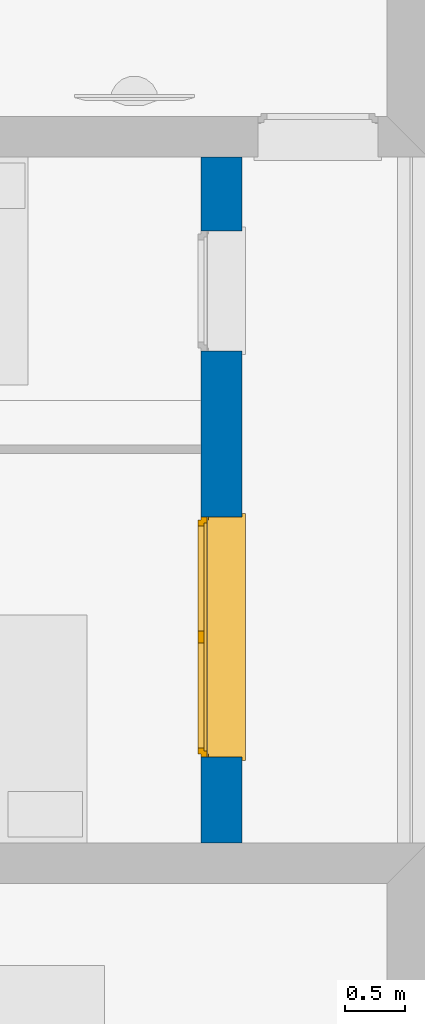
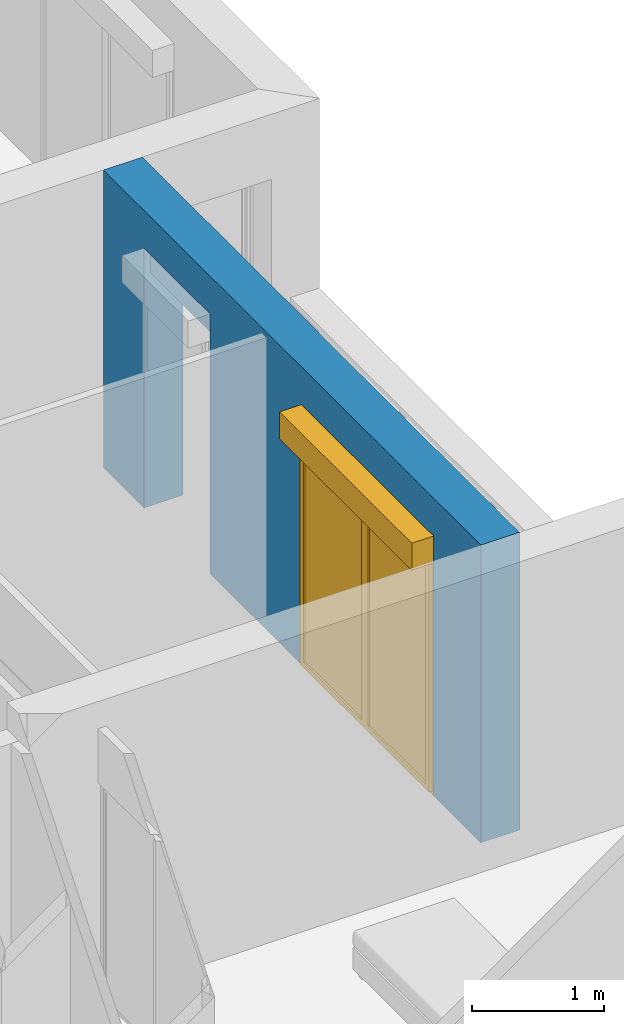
# One storey, part 36 of 164: 1 wall, 1 window, 2 openings.
"""IFC2X3 building model written with IfcOpenShell, lengths in millimetres."""

from ifc_helpers import new_model, entity, si_unit, converted_unit, derived_unit, money_unit, direction, frame, origin_with_axes, place, context, subcontext, project, spatial, polyline, outline, extrude, open_shell, faceted_brep, surface_model, source, transform, mapped, material, layer, layer_set, layer_usage, type_object, element, fill, save


model = new_model("IFC2X3")

# Units and contexts
model_context = context("Model", 3, precision=0.01, world=origin_with_axes(), true_north=direction((0.0, 1.0)))
body_context = subcontext(model_context, "Body", "Model", "MODEL_VIEW")
ifc_project = project(units=[si_unit("LENGTHUNIT", "METRE", prefix="MILLI"), si_unit("AREAUNIT", "SQUARE_METRE"), si_unit("VOLUMEUNIT", "CUBIC_METRE"), converted_unit("PLANEANGLEUNIT", "DEGREE", entity("IfcPlaneAngleMeasure", 0.0174532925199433), si_unit("PLANEANGLEUNIT", "RADIAN"), dimensions=[0, 0, 0, 0, 0, 0, 0]), money_unit("USD"), converted_unit("TIMEUNIT", "Year", entity("IfcTimeMeasure", 31557600.0), si_unit("TIMEUNIT", "SECOND"), dimensions=[0, 0, 1, 0, 0, 0, 0]), si_unit("MASSUNIT", "GRAM", prefix="KILO"), si_unit("THERMODYNAMICTEMPERATUREUNIT", "DEGREE_CELSIUS"), si_unit("LUMINOUSINTENSITYUNIT", "LUMEN"), si_unit("ENERGYUNIT", "JOULE", prefix="MEGA"), derived_unit("THERMALCONDUCTANCEUNIT", [(si_unit("POWERUNIT", "WATT"), 1), (si_unit("LENGTHUNIT", "METRE"), -1), (si_unit("THERMODYNAMICTEMPERATUREUNIT", "KELVIN"), -1)]), derived_unit("SPECIFICHEATCAPACITYUNIT", [(si_unit("ENERGYUNIT", "JOULE"), 1), (si_unit("MASSUNIT", "GRAM", prefix="KILO"), -1), (si_unit("THERMODYNAMICTEMPERATUREUNIT", "KELVIN"), -1)]), derived_unit("MASSDENSITYUNIT", [(si_unit("MASSUNIT", "GRAM", prefix="KILO"), 1), (si_unit("VOLUMEUNIT", "CUBIC_METRE"), -1)])], contexts=[model_context])

# Site, building, storey
site_placement = place(None, origin_with_axes())
site = spatial("IfcSite", under=ifc_project, at=site_placement, Name="Site", CompositionType="ELEMENT")
building_placement = place(site_placement, origin_with_axes())
building = spatial("IfcBuilding", under=site, at=building_placement, Name="Bâtiment", CompositionType="ELEMENT")
storey_placement = place(building_placement, frame((0.0, 0.0, 5750.0), z_axis=(0.0, 0.0, 1.0), x_axis=(1.0, 0.0, 0.0)))
storey = spatial("IfcBuildingStorey", under=building, at=storey_placement, Name="Etage1", CompositionType="ELEMENT", Elevation=5750.0)

# Wall, openings, window
ifc_material_1 = material(Name="Parpaing 312445824")
ifc_layer_1 = layer(ifc_material_1, 180.0, ventilated="UNKNOWN")
ifc_material_2 = material(Name="Isolant styromousse 301821074")
ifc_layer_2 = layer(ifc_material_2, 160.0, ventilated="UNKNOWN")
ifc_layer_set = layer_set([ifc_layer_1, ifc_layer_2], Name="isol int 18+16 0018356637")
ifc_layer_usage = layer_usage(ifc_layer_set, "AXIS2", "POSITIVE", 0.0)
wall_type = type_object("IfcWallType", Name="isol int 18+16 0018356637 340", PredefinedType="NOTDEFINED")
wall_placement = place(storey_placement, frame((2232806.658098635, -646738.4413036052, 0.0), z_axis=(0.0, 0.0, 1.0), x_axis=(0.0, 1.0, 0.0)))
wall = element("IfcWallStandardCase", 1, at=wall_placement, inside=storey, type_object=wall_type, material=ifc_layer_usage, Name="Mur-144", context=body_context, shape_type="SweptSolid", body=[
    extrude(outline(polyline([(0.0, 0.0), (5713.115765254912, 0.0), (5713.115765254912, 340.0000000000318), (0.0, 340.0000000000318), (0.0, 0.0)])), origin_with_axes(), (0.0, 0.0, 1.0), 2750.0),
])
opening_1_placement = place(wall_placement, frame((4599.031209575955, 0.0, 0.0), z_axis=(0.0, 0.0, 1.0), x_axis=(1.0, 0.0, 0.0)))
element("IfcOpeningElement", 2, at=opening_1_placement, cuts=wall, Name="Fen-134", context=body_context, shape_type="Brep", body=[
    faceted_brep([(500.0, 290.0000000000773, 2150.0), (500.0, 280.0000000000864, 2150.0), (500.0, -0.9999999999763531, 2150.0), (500.0, -0.9999999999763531, 0.0), (500.0, 290.0000000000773, 0.0), (500.0, 341.0000000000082, 2150.0), (500.0, 530.0000000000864, 2150.0), (500.0, 530.0000000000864, 2400.0), (500.0, 280.0000000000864, 2400.0), (-500.0, 280.0000000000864, 2150.0), (-500.0, -0.9999999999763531, 2150.0), (-500.0, -0.9999999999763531, 0.0), (-500.0, 290.0000000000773, 0.0), (-500.0, 341.0000000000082, 0.0), (500.0, 341.0000000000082, 0.0), (-500.0, 341.0000000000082, 2150.0), (-500.0, 530.0000000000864, 2150.0), (-500.0, 530.0000000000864, 2400.0), (-500.0, 280.0000000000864, 2400.0), (-500.0, 290.0000000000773, 2150.0)], [[[0, 1, 2, 3, 4]], [[1, 0, 5, 6, 7, 8]], [[1, 9, 10, 2]], [[10, 11, 3, 2]], [[4, 3, 11, 12, 13, 14]], [[5, 0, 4, 14]], [[5, 15, 16, 6]], [[7, 6, 16, 17]], [[8, 7, 17, 18]], [[9, 1, 8, 18]], [[9, 19, 12, 11, 10]], [[19, 15, 13, 12]], [[15, 5, 14, 13]], [[19, 9, 18, 17, 16, 15]]]),
])
opening_2_placement = place(wall_placement, frame((1715.842808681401, 0.0, 0.0), z_axis=(0.0, 0.0, 1.0), x_axis=(1.0, 0.0, 0.0)))
opening_2 = element("IfcOpeningElement", 3, at=opening_2_placement, cuts=wall, Name="Fen-207", context=body_context, shape_type="Brep", body=[
    faceted_brep([(1000.0, 290.0000000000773, 2150.000000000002), (1000.0, 280.0000000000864, 2150.000000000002), (1000.0, -0.9999999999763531, 2150.000000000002), (1000.0, -0.9999999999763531, 0.0), (1000.0, 290.0000000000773, 0.0), (1000.0, 341.0000000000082, 2150.000000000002), (1000.0, 530.0000000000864, 2150.000000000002), (1000.0, 530.0000000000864, 2400.000000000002), (1000.0, 280.0000000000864, 2400.000000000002), (-1000.0, 280.0000000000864, 2150.000000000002), (-1000.0, -0.9999999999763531, 2150.000000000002), (-1000.0, -0.9999999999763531, 0.0), (-1000.0, 290.0000000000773, 0.0), (-1000.0, 341.0000000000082, 0.0), (1000.0, 341.0000000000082, 0.0), (-1000.0, 341.0000000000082, 2150.000000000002), (-1000.0, 530.0000000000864, 2150.000000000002), (-1000.0, 530.0000000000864, 2400.000000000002), (-1000.0, 280.0000000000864, 2400.000000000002), (-1000.0, 290.0000000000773, 2150.000000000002)], [[[0, 1, 2, 3, 4]], [[1, 0, 5, 6, 7, 8]], [[1, 9, 10, 2]], [[10, 11, 3, 2]], [[4, 3, 11, 12, 13, 14]], [[5, 0, 4, 14]], [[5, 15, 16, 6]], [[7, 6, 16, 17]], [[8, 7, 17, 18]], [[9, 1, 8, 18]], [[9, 19, 12, 11, 10]], [[19, 15, 13, 12]], [[15, 5, 14, 13]], [[19, 9, 18, 17, 16, 15]]]),
])
window_style = type_object("IfcWindowStyle", Name="Fenêtre châssis double variable 27", ConstructionType="NOTDEFINED", OperationType="DOUBLE_PANEL_VERTICAL", ParameterTakesPrecedence=False, Sizeable=False)
shared_shape = source(origin_with_axes(), body_context, "Body", "SurfaceModel", [
    surface_model("IfcShellBasedSurfaceModel", [(1000.0, -51.00000000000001, 40.00000000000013), (1000.0, -51.00000000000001, 50.00000000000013), (-1000.0, -51.00000000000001, 50.0), (-1000.0, -51.00000000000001, 40.0), (1030.0, -369.9999999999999, 28.96551724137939), (1030.0, -339.9999999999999, 30.00324289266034), (1000.0, -339.9999999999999, 30.00324289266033), (-1000.0, -339.9999999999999, 30.00324289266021), (-1030.0, -339.9999999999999, 30.00324289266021), (-1030.0, -369.9999999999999, 28.96551724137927), (1030.0, -369.9999999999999, 8.965517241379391), (-1030.0, -369.9999999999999, 8.965517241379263), (1030.0, -359.9999999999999, 18.96551724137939), (-1030.0, -359.9999999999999, 18.96551724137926)], [open_shell([[[0, 1, 2, 3]], [[4, 5, 6, 0, 3, 7, 8, 9]], [[10, 4, 9, 11]], [[12, 10, 11, 13]]])]),
    faceted_brep([(-1000.0, -60.00000000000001, 2400.0), (-997.0, -60.00000000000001, 2400.0), (-997.0, 190.0, 2400.0), (-1000.0, 190.0, 2400.0), (-1000.0, -60.00000000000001, 2150.0), (-997.0, -60.00000000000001, 2150.0), (-997.0, 190.0, 2150.0), (-1000.0, 190.0, 2150.0)], [[[0, 1, 2, 3]], [[4, 5, 1, 0]], [[1, 5, 6, 2]], [[3, 2, 6, 7]], [[0, 3, 7, 4]], [[7, 6, 5, 4]]]),
    faceted_brep([(997.0000000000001, -59.99999999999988, 2400.0), (1000.0, -59.99999999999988, 2400.0), (1000.0, 190.0000000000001, 2400.0), (997.0000000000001, 190.0000000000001, 2400.0), (997.0000000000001, -59.99999999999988, 2150.0), (1000.0, -59.99999999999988, 2150.0), (1000.0, 190.0000000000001, 2150.0), (997.0000000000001, 190.0000000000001, 2150.0)], [[[0, 1, 2, 3]], [[4, 5, 1, 0]], [[1, 5, 6, 2]], [[3, 2, 6, 7]], [[0, 3, 7, 4]], [[7, 6, 5, 4]]]),
    faceted_brep([(-997.0, -60.0, 2150.0), (997.0, -59.99999999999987, 2150.0), (997.0, -59.99999999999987, 2400.0), (-997.0, -60.0, 2400.0), (-997.0, -56.99999999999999, 2150.0), (997.0, -56.99999999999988, 2150.0), (997.0, -56.99999999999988, 2397.0), (997.0, 187.0000000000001, 2397.0), (997.0, 187.0000000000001, 2153.0), (997.0, -37.99999999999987, 2153.0), (997.0, -37.99999999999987, 2150.0), (997.0, 190.0000000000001, 2150.0), (997.0, 190.0000000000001, 2400.0), (-997.0, 190.0, 2400.0), (-997.0, 190.0, 2150.0), (-997.0, -37.99999999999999, 2150.0), (-997.0, -37.99999999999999, 2153.0), (-997.0, 187.0, 2153.0), (-997.0, 187.0, 2397.0), (-997.0, -56.99999999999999, 2397.0)], [[[0, 1, 2, 3]], [[4, 5, 1, 0]], [[1, 5, 6, 7, 8, 9, 10, 11, 12, 2]], [[3, 2, 12, 13]], [[0, 3, 13, 14, 15, 16, 17, 18, 19, 4]], [[19, 6, 5, 4]], [[18, 7, 6, 19]], [[17, 8, 7, 18]], [[16, 9, 8, 17]], [[15, 10, 9, 16]], [[14, 11, 10, 15]], [[13, 12, 11, 14]]]),
    faceted_brep([(-994.0, -40.37442957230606, 2256.419644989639), (-994.0, -41.99999999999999, 2275.0), (-994.0, -40.37442957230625, 2293.580355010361), (-994.0, -35.54711042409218, 2311.596155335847), (-994.0, -27.66471820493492, 2328.5), (-994.0, -16.96675541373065, 2343.77827423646), (-994.0, -3.778274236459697, 2356.96675541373), (-994.0, 11.5, 2367.664718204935), (-994.0, 28.40384466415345, 2375.547110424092), (-994.0, 46.41964498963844, 2380.374429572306), (-994.0, 64.99999999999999, 2382.0), (-994.0, 83.58035501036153, 2380.374429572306), (-994.0, 101.5961553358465, 2375.547110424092), (-994.0, 118.5, 2367.664718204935), (-994.0, 133.7782742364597, 2356.96675541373), (-994.0, 146.9667554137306, 2343.77827423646), (-994.0, 157.6647182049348, 2328.5), (-994.0, 165.5471104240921, 2311.596155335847), (-994.0, 170.3744295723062, 2293.580355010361), (-994.0, 171.9999999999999, 2275.0), (-994.0, 170.3744295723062, 2256.419644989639), (-994.0, 165.5471104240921, 2238.403844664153), (-994.0, 157.6647182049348, 2221.5), (-994.0, 146.9667554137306, 2206.22172576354), (-994.0, 133.7782742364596, 2193.033244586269), (-994.0, 118.4999999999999, 2182.335281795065), (-994.0, 101.5961553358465, 2174.452889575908), (-994.0, 83.58035501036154, 2169.625570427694), (-994.0, 65.00000000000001, 2168.0), (-994.0, 46.4196449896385, 2169.625570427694), (-994.0, 28.40384466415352, 2174.452889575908), (-994.0, 11.50000000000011, 2182.335281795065), (-994.0, -3.778274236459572, 2193.033244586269), (-994.0, -16.9667554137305, 2206.22172576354), (-994.0, -27.66471820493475, 2221.5), (-994.0, -35.54711042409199, 2238.403844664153), (994.0, -40.37442957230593, 2256.419644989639), (994.0, -41.99999999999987, 2275.0), (994.0, -40.37442957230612, 2293.580355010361), (994.0, -35.54711042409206, 2311.596155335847), (994.0, -27.6647182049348, 2328.5), (994.0, -16.96675541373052, 2343.77827423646), (994.0, -3.778274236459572, 2356.96675541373), (994.0, 11.50000000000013, 2367.664718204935), (994.0, 28.40384466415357, 2375.547110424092), (994.0, 46.41964498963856, 2380.374429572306), (994.0, 65.00000000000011, 2382.0), (994.0, 83.58035501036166, 2380.374429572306), (994.0, 101.5961553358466, 2375.547110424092), (994.0, 118.5000000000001, 2367.664718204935), (994.0, 133.7782742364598, 2356.96675541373), (994.0, 146.9667554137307, 2343.77827423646), (994.0, 157.664718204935, 2328.5), (994.0, 165.5471104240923, 2311.596155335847), (994.0, 170.3744295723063, 2293.580355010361), (994.0, 172.0, 2275.0), (994.0, 170.3744295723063, 2256.419644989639), (994.0, 165.5471104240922, 2238.403844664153), (994.0, 157.6647182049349, 2221.5), (994.0, 146.9667554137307, 2206.22172576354), (994.0, 133.7782742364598, 2193.033244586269), (994.0, 118.5000000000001, 2182.335281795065), (994.0, 101.5961553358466, 2174.452889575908), (994.0, 83.58035501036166, 2169.625570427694), (994.0, 65.00000000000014, 2168.0), (994.0, 46.41964498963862, 2169.625570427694), (994.0, 28.40384466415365, 2174.452889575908), (994.0, 11.50000000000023, 2182.335281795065), (994.0, -3.778274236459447, 2193.033244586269), (994.0, -16.96675541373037, 2206.22172576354), (994.0, -27.66471820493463, 2221.5), (994.0, -35.54711042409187, 2238.403844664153)], [[[0, 1, 2, 3, 4, 5, 6, 7, 8, 9, 10, 11, 12, 13, 14, 15, 16, 17, 18, 19, 20, 21, 22, 23, 24, 25, 26, 27, 28, 29, 30, 31, 32, 33, 34, 35]], [[0, 36, 37, 1]], [[1, 37, 38, 2]], [[2, 38, 39, 3]], [[3, 39, 40, 4]], [[4, 40, 41, 5]], [[5, 41, 42, 6]], [[6, 42, 43, 7]], [[7, 43, 44, 8]], [[8, 44, 45, 9]], [[9, 45, 46, 10]], [[10, 46, 47, 11]], [[11, 47, 48, 12]], [[12, 48, 49, 13]], [[13, 49, 50, 14]], [[14, 50, 51, 15]], [[15, 51, 52, 16]], [[16, 52, 53, 17]], [[17, 53, 54, 18]], [[18, 54, 55, 19]], [[19, 55, 56, 20]], [[20, 56, 57, 21]], [[21, 57, 58, 22]], [[22, 58, 59, 23]], [[23, 59, 60, 24]], [[24, 60, 61, 25]], [[25, 61, 62, 26]], [[26, 62, 63, 27]], [[27, 63, 64, 28]], [[28, 64, 65, 29]], [[29, 65, 66, 30]], [[30, 66, 67, 31]], [[31, 67, 68, 32]], [[32, 68, 69, 33]], [[33, 69, 70, 34]], [[34, 70, 71, 35]], [[35, 71, 36, 0]], [[36, 71, 70, 69, 68, 67, 66, 65, 64, 63, 62, 61, 60, 59, 58, 57, 56, 55, 54, 53, 52, 51, 50, 49, 48, 47, 46, 45, 44, 43, 42, 41, 40, 39, 38, 37]]]),
    faceted_brep([(1000.0, -34.99999999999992, 30.0), (1000.0, -34.99999999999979, 2150.0), (1000.0, -59.99999999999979, 2150.0), (1000.0, -59.99999999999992, 30.0), (975.0, -34.99999999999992, 30.0), (975.0, -34.99999999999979, 2150.0), (975.0, -37.99999999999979, 2150.0), (997.0, -37.99999999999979, 2150.0), (997.0, -56.99999999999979, 2150.0), (975.0, -56.99999999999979, 2150.0), (975.0, -59.99999999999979, 2150.0), (975.0, -59.99999999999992, 30.0), (975.0, -56.99999999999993, 30.0), (997.0, -56.99999999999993, 30.0), (997.0, -37.99999999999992, 30.0), (975.0, -37.99999999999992, 30.0)], [[[0, 1, 2, 3]], [[4, 5, 1, 0]], [[1, 5, 6, 7, 8, 9, 10, 2]], [[3, 2, 10, 11]], [[0, 3, 11, 12, 13, 14, 15, 4]], [[15, 6, 5, 4]], [[14, 7, 6, 15]], [[13, 8, 7, 14]], [[12, 9, 8, 13]], [[11, 10, 9, 12]]]),
    faceted_brep([(-1000.0, -34.99999999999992, 30.0), (-1000.0, -59.99999999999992, 30.0), (-1000.0, -59.99999999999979, 2150.0), (-1000.0, -34.99999999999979, 2150.0), (-975.0, -34.99999999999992, 30.0), (-975.0, -37.99999999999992, 30.0), (-997.0, -37.99999999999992, 30.0), (-997.0, -56.99999999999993, 30.0), (-975.0, -56.99999999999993, 30.0), (-975.0, -59.99999999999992, 30.0), (-975.0, -59.99999999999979, 2150.0), (-975.0, -56.99999999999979, 2150.0), (-997.0, -56.99999999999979, 2150.0), (-997.0, -37.99999999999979, 2150.0), (-975.0, -37.99999999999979, 2150.0), (-975.0, -34.99999999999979, 2150.0)], [[[0, 1, 2, 3]], [[0, 4, 5, 6, 7, 8, 9, 1]], [[1, 9, 10, 2]], [[3, 2, 10, 11, 12, 13, 14, 15]], [[4, 0, 3, 15]], [[5, 4, 15, 14]], [[6, 5, 14, 13]], [[7, 6, 13, 12]], [[8, 7, 12, 11]], [[9, 8, 11, 10]]]),
    faceted_brep([(997.0, -46.66666666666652, 2275.0), (997.0, -46.66666666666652, 2266.666666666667), (-997.0, -46.66666666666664, 2266.666666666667), (-997.0, -46.66666666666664, 2275.0), (997.0, -51.66666666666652, 2275.0), (997.0, -51.66666666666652, 2266.666666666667), (997.0, -49.99999999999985, 2250.0), (997.0, -44.99999999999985, 2250.0), (-997.0, -44.99999999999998, 2250.0), (-997.0, -49.99999999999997, 2250.0), (-997.0, -51.66666666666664, 2266.666666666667), (-997.0, -51.66666666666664, 2275.0)], [[[0, 1, 2, 3]], [[4, 5, 6, 7, 1, 0]], [[2, 1, 7, 8]], [[3, 2, 8, 9, 10, 11]], [[3, 11, 4, 0]], [[10, 5, 4, 11]], [[9, 6, 5, 10]], [[8, 7, 6, 9]]]),
    faceted_brep([(-997.0, -44.99999999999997, 2250.0), (997.0, -44.99999999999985, 2250.0), (997.0, -46.66666666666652, 2233.333333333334), (-997.0, -46.66666666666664, 2233.333333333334), (-997.0, -49.99999999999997, 2250.0), (997.0, -49.99999999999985, 2250.0), (997.0, -51.66666666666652, 2233.333333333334), (997.0, -51.66666666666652, 2216.666666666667), (997.0, -49.99999999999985, 2200.0), (997.0, -44.99999999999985, 2200.0), (997.0, -46.66666666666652, 2216.666666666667), (-997.0, -46.66666666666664, 2216.666666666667), (-997.0, -44.99999999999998, 2200.0), (-997.0, -49.99999999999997, 2200.0), (-997.0, -51.66666666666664, 2216.666666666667), (-997.0, -51.66666666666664, 2233.333333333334)], [[[0, 1, 2, 3]], [[4, 5, 1, 0]], [[1, 5, 6, 7, 8, 9, 10, 2]], [[3, 2, 10, 11]], [[0, 3, 11, 12, 13, 14, 15, 4]], [[15, 6, 5, 4]], [[14, 7, 6, 15]], [[13, 8, 7, 14]], [[12, 9, 8, 13]], [[11, 10, 9, 12]]]),
    faceted_brep([(-997.0, -44.99999999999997, 2200.0), (997.0, -44.99999999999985, 2200.0), (997.0, -46.66666666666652, 2183.333333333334), (-997.0, -46.66666666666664, 2183.333333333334), (-997.0, -49.99999999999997, 2200.0), (997.0, -49.99999999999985, 2200.0), (997.0, -51.66666666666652, 2183.333333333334), (997.0, -51.66666666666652, 2166.666666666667), (997.0, -49.99999999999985, 2150.000000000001), (997.0, -44.99999999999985, 2150.000000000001), (997.0, -46.66666666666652, 2166.666666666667), (-997.0, -46.66666666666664, 2166.666666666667), (-997.0, -44.99999999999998, 2150.000000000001), (-997.0, -49.99999999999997, 2150.000000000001), (-997.0, -51.66666666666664, 2166.666666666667), (-997.0, -51.66666666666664, 2183.333333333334)], [[[0, 1, 2, 3]], [[4, 5, 1, 0]], [[1, 5, 6, 7, 8, 9, 10, 2]], [[3, 2, 10, 11]], [[0, 3, 11, 12, 13, 14, 15, 4]], [[15, 6, 5, 4]], [[14, 7, 6, 15]], [[13, 8, 7, 14]], [[12, 9, 8, 13]], [[11, 10, 9, 12]]]),
    faceted_brep([(-975.0, 0.0, 2100.0), (-1000.0, 0.0, 2100.0), (-1000.0, -50.00000000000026, 2100.0), (-950.0, -50.00000000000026, 2100.0), (-950.0, -25.00000000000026, 2100.0), (-975.0, -25.00000000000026, 2100.0), (-975.0, 0.0, 50.00000000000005), (-1000.0, 0.0, 50.00000000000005), (-1000.0, -50.00000000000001, 50.00000000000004), (-950.0, -50.00000000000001, 50.00000000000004), (-950.0, -25.00000000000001, 50.00000000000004), (-975.0, -25.00000000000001, 50.00000000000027)], [[[0, 1, 2, 3, 4, 5]], [[6, 7, 1, 0]], [[1, 7, 8, 2]], [[2, 8, 9, 3]], [[4, 3, 9, 10]], [[10, 11, 5, 4]], [[5, 11, 6, 0]], [[11, 10, 9, 8, 7, 6]]]),
    faceted_brep([(950.0, -25.00000000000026, 2100.0), (950.0, -50.00000000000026, 2100.0), (1000.0, -50.00000000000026, 2100.0), (1000.0, 0.0, 2100.0), (975.0, 0.0, 2100.0), (975.0, -25.00000000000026, 2100.0), (950.0, -25.00000000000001, 50.00000000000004), (950.0, -50.00000000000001, 50.00000000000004), (1000.0, -50.00000000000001, 50.00000000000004), (1000.0, 0.0, 50.00000000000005), (975.0, 0.0, 50.00000000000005), (975.0, -25.00000000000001, 50.00000000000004)], [[[0, 1, 2, 3, 4, 5]], [[6, 7, 1, 0]], [[8, 2, 1, 7]], [[9, 3, 2, 8]], [[4, 3, 9, 10]], [[10, 11, 5, 4]], [[5, 11, 6, 0]], [[11, 10, 9, 8, 7, 6]]]),
    faceted_brep([(950.0, -25.00000000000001, 50.00000000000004), (950.0, -50.00000000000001, 50.00000000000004), (1000.0, -50.00000000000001, 50.00000000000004), (1000.0, 0.0, 50.00000000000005), (975.0, 0.0, 50.00000000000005), (975.0, -25.00000000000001, 50.00000000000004), (-950.0, -25.00000000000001, 50.00000000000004), (-950.0, -50.00000000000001, 50.00000000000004), (-1000.0, -50.00000000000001, 50.00000000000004), (-1000.0, -50.0, 0.0), (1000.0, -50.0, 0.0), (1000.0, 0.0, 0.0), (-975.0, 0.0, 24.99999999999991), (975.0, 0.0, 24.99999999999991), (-1000.0, 0.0, 0.0), (-1000.0, 0.0, 50.00000000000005), (-975.0, 0.0, 50.00000000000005), (975.0, -25.0, 24.99999999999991), (-975.0, -25.0, 24.99999999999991), (-975.0, -25.00000000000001, 50.00000000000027)], [[[0, 1, 2, 3, 4, 5]], [[6, 7, 1, 0]], [[8, 9, 10, 2, 1, 7]], [[11, 3, 2, 10]], [[12, 13, 4, 3, 11, 14, 15, 16]], [[13, 17, 5, 4]], [[5, 17, 18, 19, 6, 0]], [[19, 16, 15, 8, 7, 6]], [[15, 14, 9, 8]], [[14, 11, 10, 9]], [[12, 18, 17, 13]], [[19, 18, 12, 16]]]),
    faceted_brep([(-975.0, 0.0, 2100.0), (-1000.0, 0.0, 2100.0), (-1000.0, 0.0, 2150.0), (1000.0, 0.0, 2150.0), (1000.0, 0.0, 2100.0), (975.0, 0.0, 2100.0), (975.0, 0.0, 2125.0), (-975.0, 0.0, 2125.0), (-975.0, -25.00000000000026, 2100.0), (-950.0, -25.00000000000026, 2100.0), (-950.0, -50.00000000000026, 2100.0), (-1000.0, -50.00000000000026, 2100.0), (-1000.0, -50.00000000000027, 2150.0), (1000.0, -50.00000000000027, 2150.0), (1000.0, -50.00000000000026, 2100.0), (975.0, -25.00000000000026, 2100.0), (950.0, -50.00000000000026, 2100.0), (950.0, -25.00000000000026, 2100.0), (975.0, -25.00000000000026, 2125.0), (-975.0, -25.00000000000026, 2125.0)], [[[0, 1, 2, 3, 4, 5, 6, 7]], [[8, 9, 10, 11, 1, 0]], [[2, 1, 11, 12]], [[3, 2, 12, 13]], [[4, 3, 13, 14]], [[15, 5, 4, 14, 16, 17]], [[5, 15, 18, 6]], [[6, 18, 19, 7]], [[7, 19, 8, 0]], [[17, 9, 8, 19, 18, 15]], [[17, 16, 10, 9]], [[14, 13, 12, 11, 10, 16]]]),
    faceted_brep([(-925.0, -25.00000000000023, 2075.0), (-925.0, 24.99999999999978, 2075.0), (-975.0, 24.99999999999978, 2075.0), (-975.0, -25.00000000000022, 2075.0), (-925.0, -24.99999999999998, 75.00000000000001), (-925.0, 25.00000000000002, 75.00000000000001), (-975.0, 25.00000000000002, 75.00000000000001), (-975.0, -24.99999999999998, 75.00000000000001)], [[[0, 1, 2, 3]], [[4, 5, 1, 0]], [[1, 5, 6, 2]], [[3, 2, 6, 7]], [[0, 3, 7, 4]], [[7, 6, 5, 4]]]),
    faceted_brep([(-49.99999999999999, -25.00000000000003, 75.00000000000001), (-49.99999999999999, 24.99999999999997, 75.00000000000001), (0.0, 24.99999999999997, 75.00000000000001), (0.0, -25.00000000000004, 75.00000000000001), (-49.99999999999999, -25.00000000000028, 2075.0), (-49.99999999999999, 24.99999999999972, 2075.0), (0.0, 24.99999999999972, 2075.0), (0.0, -25.00000000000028, 2075.0)], [[[0, 1, 2, 3]], [[4, 5, 1, 0]], [[1, 5, 6, 2]], [[3, 2, 6, 7]], [[0, 3, 7, 4]], [[7, 6, 5, 4]]]),
    faceted_brep([(0.0, -25.00000000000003, 25.0), (0.0, 24.99999999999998, 25.00000000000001), (0.0, 24.99999999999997, 75.00000000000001), (0.0, -25.00000000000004, 75.00000000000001), (-975.0, -24.99999999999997, 25.0), (-975.0, 25.00000000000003, 25.00000000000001), (-975.0, 25.00000000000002, 75.00000000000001), (-925.0, 25.00000000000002, 75.00000000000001), (-49.99999999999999, 24.99999999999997, 75.00000000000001), (-49.99999999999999, -25.00000000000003, 75.00000000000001), (-925.0, -24.99999999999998, 75.00000000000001), (-975.0, -24.99999999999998, 75.00000000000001)], [[[0, 1, 2, 3]], [[4, 5, 1, 0]], [[1, 5, 6, 7, 8, 2]], [[3, 2, 8, 9]], [[0, 3, 9, 10, 11, 4]], [[11, 6, 5, 4]], [[10, 7, 6, 11]], [[9, 8, 7, 10]]]),
    faceted_brep([(-975.0, -25.00000000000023, 2125.0), (-975.0, 24.99999999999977, 2125.0), (-975.0, 24.99999999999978, 2075.0), (-975.0, -25.00000000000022, 2075.0), (0.0, -25.00000000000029, 2125.0), (0.0, 24.99999999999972, 2125.0), (0.0, 24.99999999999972, 2075.0), (-49.99999999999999, 24.99999999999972, 2075.0), (-925.0, 24.99999999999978, 2075.0), (-925.0, -25.00000000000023, 2075.0), (-49.99999999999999, -25.00000000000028, 2075.0), (0.0, -25.00000000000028, 2075.0)], [[[0, 1, 2, 3]], [[4, 5, 1, 0]], [[1, 5, 6, 7, 8, 2]], [[3, 2, 8, 9]], [[0, 3, 9, 10, 11, 4]], [[11, 6, 5, 4]], [[10, 7, 6, 11]], [[9, 8, 7, 10]]]),
    surface_model("IfcShellBasedSurfaceModel", [(-925.0, -10.00000000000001, 75.00000000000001), (-49.99999999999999, -10.00000000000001, 75.00000000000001), (-49.99999999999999, -10.00000000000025, 2075.0), (-925.0, -10.00000000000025, 2075.0)], [open_shell([[[0, 1, 2, 3]]])]),
    surface_model("IfcShellBasedSurfaceModel", [(-925.0, 9.999999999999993, 75.00000000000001), (-925.0, 9.99999999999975, 2075.0), (-49.99999999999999, 9.99999999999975, 2075.0), (-49.99999999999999, 9.999999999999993, 75.00000000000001)], [open_shell([[[0, 1, 2, 3]]])]),
    faceted_brep([(49.99999999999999, -25.00000000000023, 2075.0), (49.99999999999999, 24.99999999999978, 2075.0), (0.0, 24.99999999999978, 2075.0), (0.0, -25.00000000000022, 2075.0), (49.99999999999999, -24.99999999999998, 75.00000000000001), (49.99999999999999, 25.00000000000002, 75.00000000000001), (0.0, 25.00000000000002, 75.00000000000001), (0.0, -24.99999999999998, 75.00000000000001)], [[[0, 1, 2, 3]], [[4, 5, 1, 0]], [[1, 5, 6, 2]], [[3, 2, 6, 7]], [[0, 3, 7, 4]], [[7, 6, 5, 4]]]),
    faceted_brep([(925.0, -25.00000000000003, 75.00000000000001), (925.0, 24.99999999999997, 75.00000000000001), (975.0, 24.99999999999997, 75.00000000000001), (975.0, -25.00000000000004, 75.00000000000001), (925.0, -25.00000000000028, 2075.0), (925.0, 24.99999999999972, 2075.0), (975.0, 24.99999999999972, 2075.0), (975.0, -25.00000000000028, 2075.0)], [[[0, 1, 2, 3]], [[4, 5, 1, 0]], [[1, 5, 6, 2]], [[3, 2, 6, 7]], [[0, 3, 7, 4]], [[7, 6, 5, 4]]]),
    faceted_brep([(975.0, -25.00000000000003, 25.0), (975.0, 24.99999999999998, 25.00000000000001), (975.0, 24.99999999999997, 75.00000000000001), (975.0, -25.00000000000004, 75.00000000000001), (0.0, -24.99999999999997, 25.0), (0.0, 25.00000000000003, 25.00000000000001), (0.0, 25.00000000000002, 75.00000000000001), (49.99999999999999, 25.00000000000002, 75.00000000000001), (925.0, 24.99999999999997, 75.00000000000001), (925.0, -25.00000000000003, 75.00000000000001), (49.99999999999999, -24.99999999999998, 75.00000000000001), (0.0, -24.99999999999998, 75.00000000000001)], [[[0, 1, 2, 3]], [[4, 5, 1, 0]], [[1, 5, 6, 7, 8, 2]], [[3, 2, 8, 9]], [[0, 3, 9, 10, 11, 4]], [[11, 6, 5, 4]], [[10, 7, 6, 11]], [[9, 8, 7, 10]]]),
    faceted_brep([(0.0, -25.00000000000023, 2125.0), (0.0, 24.99999999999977, 2125.0), (0.0, 24.99999999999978, 2075.0), (0.0, -25.00000000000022, 2075.0), (975.0, -25.00000000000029, 2125.0), (975.0, 24.99999999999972, 2125.0), (975.0, 24.99999999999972, 2075.0), (925.0, 24.99999999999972, 2075.0), (49.99999999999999, 24.99999999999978, 2075.0), (49.99999999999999, -25.00000000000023, 2075.0), (925.0, -25.00000000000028, 2075.0), (975.0, -25.00000000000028, 2075.0)], [[[0, 1, 2, 3]], [[4, 5, 1, 0]], [[1, 5, 6, 7, 8, 2]], [[3, 2, 8, 9]], [[0, 3, 9, 10, 11, 4]], [[11, 6, 5, 4]], [[10, 7, 6, 11]], [[9, 8, 7, 10]]]),
    surface_model("IfcShellBasedSurfaceModel", [(49.99999999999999, -10.00000000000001, 75.00000000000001), (925.0, -10.00000000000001, 75.00000000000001), (925.0, -10.00000000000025, 2075.0), (49.99999999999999, -10.00000000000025, 2075.0)], [open_shell([[[0, 1, 2, 3]]])]),
    surface_model("IfcShellBasedSurfaceModel", [(49.99999999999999, 9.999999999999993, 75.00000000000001), (49.99999999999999, 9.99999999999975, 2075.0), (925.0, 9.99999999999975, 2075.0), (925.0, 9.999999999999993, 75.00000000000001)], [open_shell([[[0, 1, 2, 3]]])]),
])
window_placement = place(opening_2_placement, frame((-999.9999999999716, 0.0, 0.0), z_axis=(0.0, 0.0, 1.0), x_axis=(1.0, 0.0, 0.0)))
window = element("IfcWindow", 4, at=window_placement, inside=storey, type_object=window_style, Name="Fen-207", OverallHeight=2150.0, OverallWidth=2000.0, context=body_context, shape_type="MappedRepresentation", body=[
    mapped(shared_shape, transform((1000.0, 340.0000000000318, 0.0))),
])
fill(opening_2, window)

save(model, "model.ifc")
